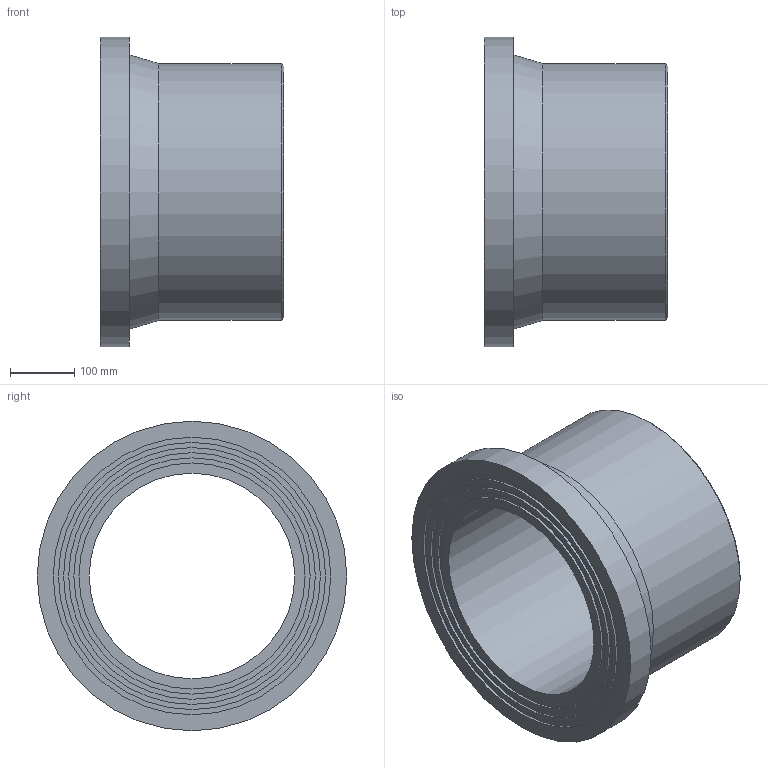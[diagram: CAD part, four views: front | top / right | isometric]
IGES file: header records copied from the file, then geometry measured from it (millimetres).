
Global section: file name: 490207400.ipt; native system: Autodesk Inventor 2015; preprocessor: unknown; author: Кирилл,,11,0; organization: 20170718.095537; date: 20190331.185841; units: millimetre
Bounding box: 286 x 482 x 482 mm (x, y, z)
Volume: 15765230.8 mm3; surface area: 876118.2 mm2
Topology: 1 solids, 1 shells, 20 faces, 33 edges, 22 vertices
Faces by surface type: plane 9, cylinder 5, revolution 4, cone 2
Full cylindrical faces by diameter (mm): 352 x1, 384 x1, 400 x1, 416 x1, 482 x1
